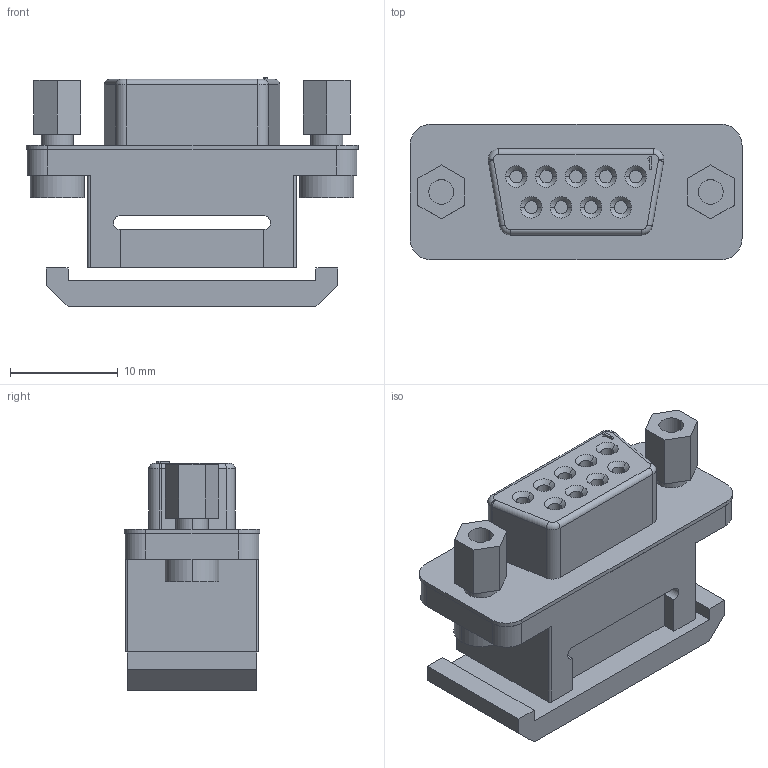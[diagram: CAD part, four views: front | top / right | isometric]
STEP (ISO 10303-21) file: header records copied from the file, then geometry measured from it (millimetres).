
FILE_DESCRIPTION (( 'STEP AP214' ), '1' );
FILE_NAME ('DI-9F.STEP', '2011-05-17T10:19:10', ( 'vpeshkov' ), ( 'licard' ), 'SwSTEP 2.0', 'SolidWorks 2009', '' );
FILE_SCHEMA (( 'AUTOMOTIVE_DESIGN' ));
Length unit declared in the file: millimetre
Products named in the file (1): DI-9F
Bounding box: 30.8 x 12.6 x 21.3 mm (x, y, z)
Volume: 4300.6 mm3; surface area: 3528.8 mm2
Topology: 2 solids, 2 shells, 166 faces, 392 edges, 251 vertices
Faces by surface type: plane 84, cylinder 58, cone 18, torus 6
Entity records: 5555 total; most frequent: DIRECTION 869, CARTESIAN_POINT 810, ORIENTED_EDGE 784, EDGE_CURVE 392, AXIS2_PLACEMENT_3D 310, VERTEX_POINT 251, VECTOR 249, LINE 249
